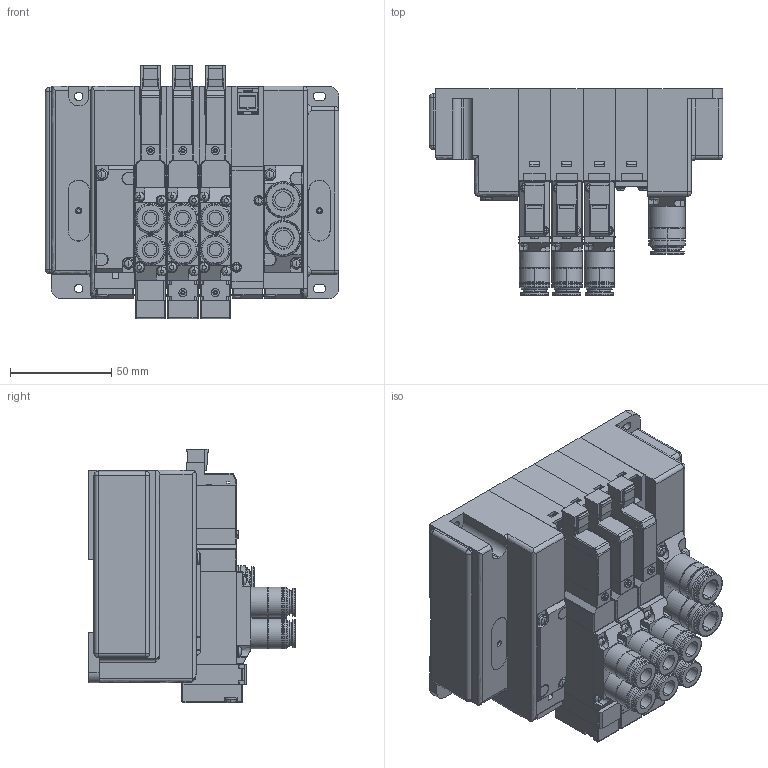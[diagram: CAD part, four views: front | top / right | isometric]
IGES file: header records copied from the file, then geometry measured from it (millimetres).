
Start section: ------------------------------------------------------------------------
Global section: file name: D:\ICADMX\tmp\trans3d_spg\CVICAD02.5220.F15M4XN-JR_16436.igs; native system: spGate; preprocessor: ver12.6.6; author: Unknown; organization: Unknown; date: 210712.184711; units: millimetre
Bounding box: 145 x 102.1 x 125.5 mm (x, y, z)
Volume: 800824.4 mm3; surface area: 208404.1 mm2
Topology: 39 solids, 39 shells, 3300 faces, 8499 edges, 5450 vertices
Faces by surface type: bspline 3300
